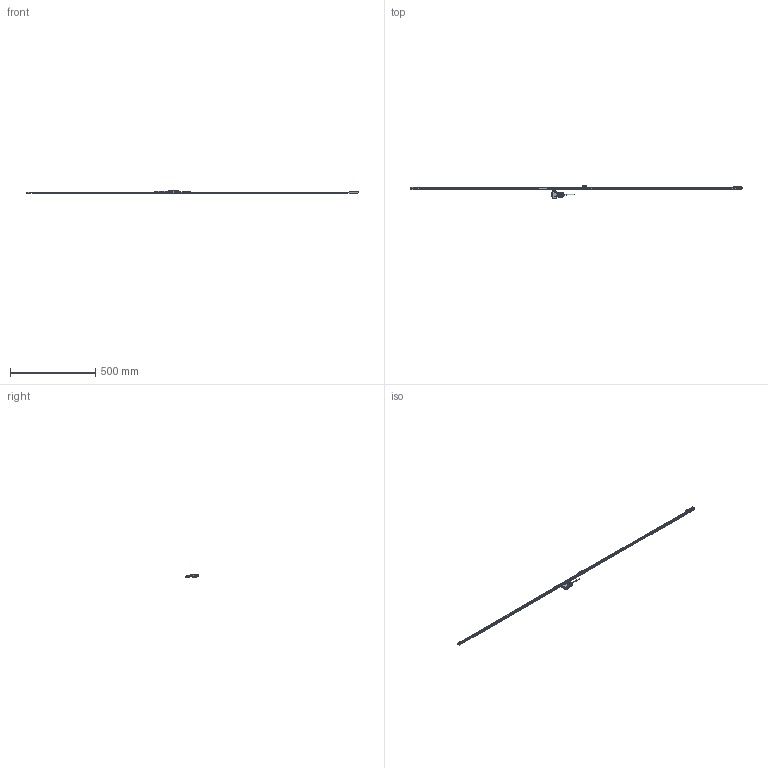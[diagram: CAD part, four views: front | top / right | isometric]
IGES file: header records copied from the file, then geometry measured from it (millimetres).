
Start section: Elysium IGES Interface
Global section: file name: 79H\\Utsu119s\kiyo_cad\data\3D\ST46EZA\HP掲載用_201803\ST46EZA-D\ST46EZA-1800D.igs; native system: Creo Elements/Direct Modeling 18.1B  29-Sep-2012; preprocessor: Creo Element/Direct IGES_3D V2.2; author: Unknown; organization: Unknown; date: 20180322.174817; units: millimetre
Bounding box: 1942 x 74.86 x 18.68 mm (x, y, z)
Volume: 164244 mm3; surface area: 115878 mm2
Topology: 3 solids, 5 shells, 2660 faces, 7119 edges, 4643 vertices
Faces by surface type: bspline 2660
